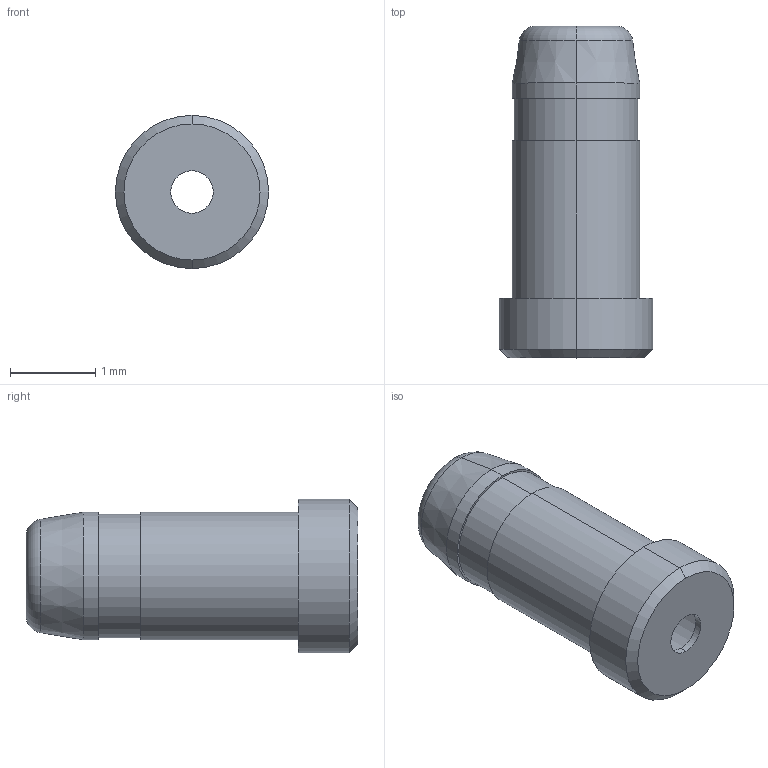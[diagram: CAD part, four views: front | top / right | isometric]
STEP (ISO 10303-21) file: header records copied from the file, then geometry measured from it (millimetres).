
FILE_DESCRIPTION((''),'2;1');
FILE_NAME('SOLDER__W___ANY_PRT','2008-06-30T',('GRA'),(''),'PRO/ENGINEER BY PARAMETRIC TECHNOLOGY CORPORATION, 2006170','PRO/ENGINEER BY PARAMETRIC TECHNOLOGY CORPORATION, 2006170','');
FILE_SCHEMA(('CONFIG_CONTROL_DESIGN'));
Length unit declared in the file: millimetre
Products named in the file (1): SOLDER__W___ANY_PRT
Bounding box: 1.8 x 3.9 x 1.8 mm (x, y, z)
Volume: 3.4 mm3; surface area: 36.3 mm2
Topology: 1 solids, 1 shells, 28 faces, 56 edges, 32 vertices
Faces by surface type: cylinder 14, cone 6, torus 4, plane 4
Entity records: 770 total; most frequent: DIRECTION 148, CARTESIAN_POINT 116, ORIENTED_EDGE 112, AXIS2_PLACEMENT_3D 64, EDGE_CURVE 56, CIRCLE 36, VERTEX_POINT 32, EDGE_LOOP 32
